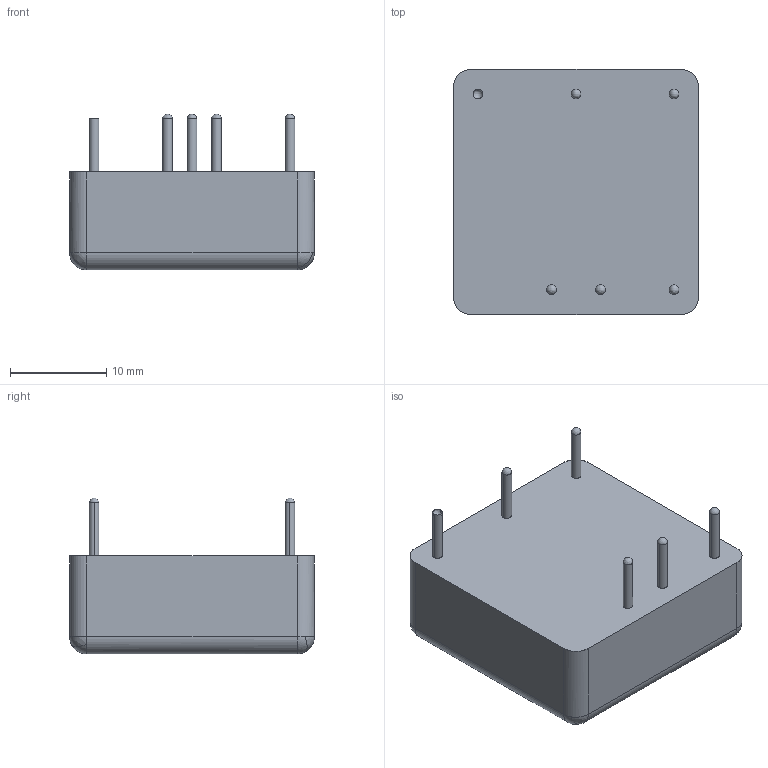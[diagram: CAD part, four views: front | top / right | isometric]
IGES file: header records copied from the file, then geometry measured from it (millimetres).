
Start section: SolidWorks IGES file using analytic representation for surfaces
Global section: file name: C:\Users\ksmith.XPNA\Desktop\JSM25\JSM25.IGS; native system: SolidWorks 2017; preprocessor: SolidWorks 2017; author: ksmith; date: 170613.095519; units: inch
Bounding box: 25.4 x 25.4 x 16.16 mm (x, y, z)
Surface area: 2316.5 mm2 (no closed solid volume)
Topology: 0 solids, 0 shells, 40 faces, 384 edges, 364 vertices
Faces by surface type: revolution 34, bspline 6
